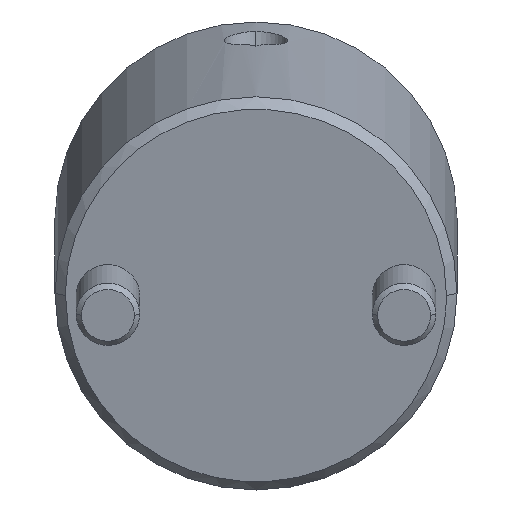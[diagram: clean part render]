
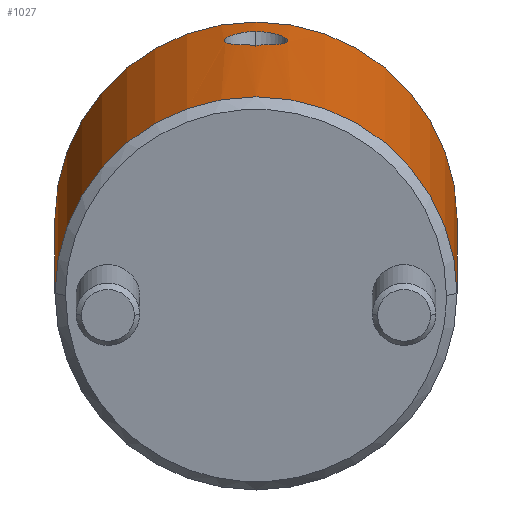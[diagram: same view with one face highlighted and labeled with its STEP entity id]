
A CAD part, front view. The second image highlights one B-rep face of the part: STEP entity #1027.
In plain terms, the highlighted cylindrical face has radius 19 mm (diameter 38 mm), a partial arc.
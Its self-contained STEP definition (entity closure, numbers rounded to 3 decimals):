
#763=CARTESIAN_POINT('Vertex',(0.,19.,1.)) ;
#766=CARTESIAN_POINT('Axis2P3D Location',(0.,0.,1.)) ;
#770=CARTESIAN_POINT('Vertex',(0.,-19.,1.)) ;
#922=CARTESIAN_POINT('Axis2P3D Location',(0.,0.,-1.8)) ;
#927=CARTESIAN_POINT('Line Origine',(0.,19.,-1.8)) ;
#931=CARTESIAN_POINT('Vertex',(0.,19.,35.)) ;
#934=CARTESIAN_POINT('Axis2P3D Location',(0.,0.,35.)) ;
#938=CARTESIAN_POINT('Vertex',(0.,-19.,35.)) ;
#941=CARTESIAN_POINT('Line Origine',(0.,-19.,-1.8)) ;
#953=CARTESIAN_POINT('Control Point',(19.,0.,30.665)) ;
#954=CARTESIAN_POINT('Control Point',(19.,0.082,30.665)) ;
#955=CARTESIAN_POINT('Control Point',(19.,0.163,30.663)) ;
#956=CARTESIAN_POINT('Control Point',(18.999,0.245,30.657)) ;
#957=CARTESIAN_POINT('Control Point',(18.995,0.489,30.63)) ;
#958=CARTESIAN_POINT('Control Point',(18.987,0.731,30.577)) ;
#959=CARTESIAN_POINT('Control Point',(18.98,0.894,30.529)) ;
#960=CARTESIAN_POINT('Control Point',(18.963,1.207,30.411)) ;
#961=CARTESIAN_POINT('Control Point',(18.942,1.499,30.251)) ;
#962=CARTESIAN_POINT('Control Point',(18.93,1.641,30.159)) ;
#963=CARTESIAN_POINT('Control Point',(18.905,1.913,29.956)) ;
#964=CARTESIAN_POINT('Control Point',(18.878,2.156,29.716)) ;
#965=CARTESIAN_POINT('Control Point',(18.864,2.27,29.587)) ;
#966=CARTESIAN_POINT('Control Point',(18.838,2.479,29.312)) ;
#967=CARTESIAN_POINT('Control Point',(18.814,2.652,29.008)) ;
#968=CARTESIAN_POINT('Control Point',(18.803,2.727,28.852)) ;
#969=CARTESIAN_POINT('Control Point',(18.784,2.856,28.531)) ;
#970=CARTESIAN_POINT('Control Point',(18.771,2.941,28.192)) ;
#971=CARTESIAN_POINT('Control Point',(18.766,2.972,28.017)) ;
#972=CARTESIAN_POINT('Control Point',(18.76,3.01,27.673)) ;
#973=CARTESIAN_POINT('Control Point',(18.762,3.,27.329)) ;
#974=CARTESIAN_POINT('Control Point',(18.764,2.983,27.158)) ;
#975=CARTESIAN_POINT('Control Point',(18.776,2.912,26.736)) ;
#976=CARTESIAN_POINT('Control Point',(18.797,2.77,26.335)) ;
#977=CARTESIAN_POINT('Control Point',(18.814,2.659,26.105)) ;
#978=CARTESIAN_POINT('Control Point',(18.856,2.348,25.599)) ;
#979=CARTESIAN_POINT('Control Point',(18.905,1.924,25.187)) ;
#980=CARTESIAN_POINT('Control Point',(18.932,1.648,24.985)) ;
#981=CARTESIAN_POINT('Control Point',(18.969,1.16,24.728)) ;
#982=CARTESIAN_POINT('Control Point',(18.991,0.626,24.586)) ;
#983=CARTESIAN_POINT('Control Point',(18.997,0.418,24.549)) ;
#984=CARTESIAN_POINT('Control Point',(19.,0.21,24.531)) ;
#985=CARTESIAN_POINT('Control Point',(19.,0.,24.531)) ;
#986=CARTESIAN_POINT('Vertex',(19.,0.,30.665)) ;
#988=CARTESIAN_POINT('Vertex',(19.,0.,24.531)) ;
#992=CARTESIAN_POINT('Control Point',(19.,0.,24.531)) ;
#993=CARTESIAN_POINT('Control Point',(19.,-0.168,24.531)) ;
#994=CARTESIAN_POINT('Control Point',(18.998,-0.336,24.543)) ;
#995=CARTESIAN_POINT('Control Point',(18.994,-0.503,24.566)) ;
#996=CARTESIAN_POINT('Control Point',(18.983,-0.835,24.637)) ;
#997=CARTESIAN_POINT('Control Point',(18.966,-1.155,24.752)) ;
#998=CARTESIAN_POINT('Control Point',(18.956,-1.308,24.82)) ;
#999=CARTESIAN_POINT('Control Point',(18.933,-1.606,24.979)) ;
#1000=CARTESIAN_POINT('Control Point',(18.908,-1.879,25.178)) ;
#1001=CARTESIAN_POINT('Control Point',(18.894,-2.008,25.287)) ;
#1002=CARTESIAN_POINT('Control Point',(18.867,-2.249,25.522)) ;
#1003=CARTESIAN_POINT('Control Point',(18.841,-2.455,25.789)) ;
#1004=CARTESIAN_POINT('Control Point',(18.829,-2.548,25.93)) ;
#1005=CARTESIAN_POINT('Control Point',(18.8,-2.756,26.297)) ;
#1006=CARTESIAN_POINT('Control Point',(18.778,-2.898,26.697)) ;
#1007=CARTESIAN_POINT('Control Point',(18.768,-2.958,26.949)) ;
#1008=CARTESIAN_POINT('Control Point',(18.759,-3.014,27.375)) ;
#1009=CARTESIAN_POINT('Control Point',(18.762,-2.997,27.805)) ;
#1010=CARTESIAN_POINT('Control Point',(18.765,-2.977,27.979)) ;
#1011=CARTESIAN_POINT('Control Point',(18.778,-2.9,28.41)) ;
#1012=CARTESIAN_POINT('Control Point',(18.8,-2.751,28.82)) ;
#1013=CARTESIAN_POINT('Control Point',(18.817,-2.636,29.058)) ;
#1014=CARTESIAN_POINT('Control Point',(18.854,-2.361,29.503)) ;
#1015=CARTESIAN_POINT('Control Point',(18.895,-2.008,29.876)) ;
#1016=CARTESIAN_POINT('Control Point',(18.915,-1.812,30.044)) ;
#1017=CARTESIAN_POINT('Control Point',(18.955,-1.366,30.354)) ;
#1018=CARTESIAN_POINT('Control Point',(18.984,-0.86,30.555)) ;
#1019=CARTESIAN_POINT('Control Point',(18.995,-0.573,30.63)) ;
#1020=CARTESIAN_POINT('Control Point',(19.,-0.288,30.665)) ;
#1021=CARTESIAN_POINT('Control Point',(19.,0.,30.665)) ;
#767=DIRECTION('Axis2P3D Direction',(0.,0.,1.)) ;
#923=DIRECTION('Axis2P3D Direction',(0.,-0.,1.)) ;
#924=DIRECTION('Axis2P3D XDirection',(0.,-1.,0.)) ;
#928=DIRECTION('Vector Direction',(0.,0.,1.)) ;
#935=DIRECTION('Axis2P3D Direction',(0.,-0.,1.)) ;
#942=DIRECTION('Vector Direction',(0.,0.,1.)) ;
#768=AXIS2_PLACEMENT_3D('Circle Axis2P3D',#766,#767,$) ;
#925=AXIS2_PLACEMENT_3D('Cylinder Axis2P3D',#922,#923,#924) ;
#936=AXIS2_PLACEMENT_3D('Circle Axis2P3D',#934,#935,$) ;
#947=ORIENTED_EDGE('',*,*,#933,.F.) ;
#948=ORIENTED_EDGE('',*,*,#940,.T.) ;
#949=ORIENTED_EDGE('',*,*,#945,.T.) ;
#950=ORIENTED_EDGE('',*,*,#772,.F.) ;
#1024=ORIENTED_EDGE('',*,*,#990,.T.) ;
#1025=ORIENTED_EDGE('',*,*,#1022,.T.) ;
#1026=FACE_BOUND('',#1023,.T.) ;
#929=VECTOR('Line Direction',#928,1.) ;
#943=VECTOR('Line Direction',#942,1.) ;
#1027=ADVANCED_FACE('MANIFOLD_SOLID_BREP #1116',(#951,#1026),#926,.T.) ;
#952=B_SPLINE_CURVE_WITH_KNOTS('',5,(#953,#954,#955,#956,#957,#958,#959,#960,#961,#962,#963,#964,#965,#966,#967,#968,#969,#970,#971,#972,#973,#974,#975,#976,#977,#978,#979,#980,#981,#982,#983,#984,#985),.UNSPECIFIED.,.F.,.U.,(6,3,3,3,3,3,3,3,3,3,6),(0.,0.585,1.767,2.972,4.197,5.41,6.616,7.814,9.611,12.008,13.501),.UNSPECIFIED.) ;
#991=B_SPLINE_CURVE_WITH_KNOTS('',5,(#992,#993,#994,#995,#996,#997,#998,#999,#1000,#1001,#1002,#1003,#1004,#1005,#1006,#1007,#1008,#1009,#1010,#1011,#1012,#1013,#1014,#1015,#1016,#1017,#1018,#1019,#1020,#1021),.UNSPECIFIED.,.F.,.U.,(6,3,3,3,3,3,3,3,3,6),(0.,1.206,2.407,3.614,4.817,6.61,7.813,9.635,11.452,13.504),.UNSPECIFIED.) ;
#769=CIRCLE('generated circle',#768,19.) ;
#937=CIRCLE('generated circle',#936,19.) ;
#926=CYLINDRICAL_SURFACE('generated cylinder',#925,19.) ;
#772=EDGE_CURVE('',#764,#771,#769,.F.) ;
#933=EDGE_CURVE('',#932,#764,#930,.F.) ;
#940=EDGE_CURVE('',#932,#939,#937,.F.) ;
#945=EDGE_CURVE('',#939,#771,#944,.F.) ;
#990=EDGE_CURVE('',#987,#989,#952,.T.) ;
#1022=EDGE_CURVE('',#989,#987,#991,.T.) ;
#946=EDGE_LOOP('',(#947,#948,#949,#950)) ;
#1023=EDGE_LOOP('',(#1024,#1025)) ;
#951=FACE_OUTER_BOUND('',#946,.T.) ;
#930=LINE('Line',#927,#929) ;
#944=LINE('Line',#941,#943) ;
#764=VERTEX_POINT('',#763) ;
#771=VERTEX_POINT('',#770) ;
#932=VERTEX_POINT('',#931) ;
#939=VERTEX_POINT('',#938) ;
#987=VERTEX_POINT('',#986) ;
#989=VERTEX_POINT('',#988) ;
